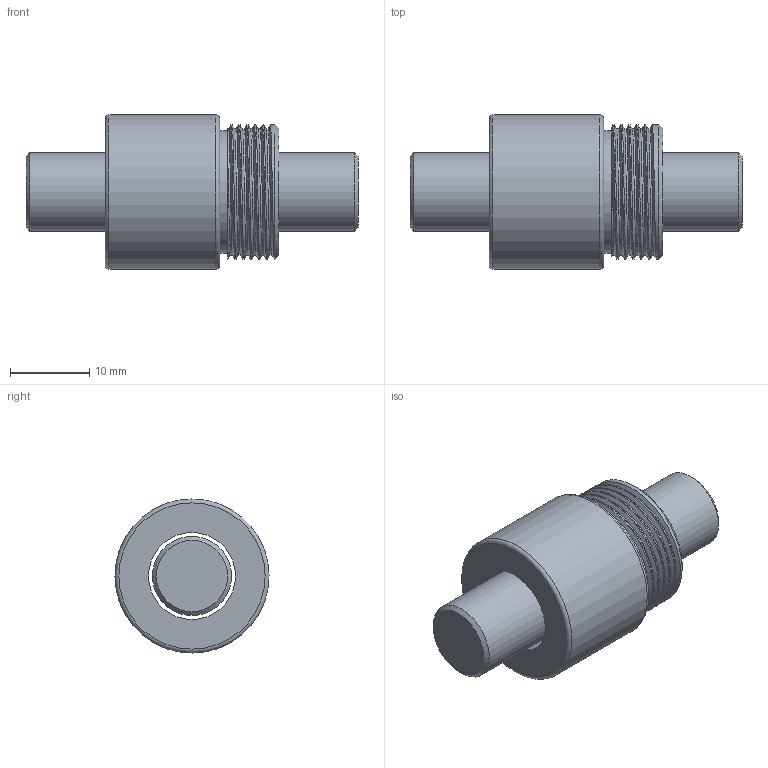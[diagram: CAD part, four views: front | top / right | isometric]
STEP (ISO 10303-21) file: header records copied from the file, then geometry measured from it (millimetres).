
FILE_DESCRIPTION(/* description */ (''),/* implementation_level */ '2;1');
FILE_NAME(/* name */ 'BSH1002',/* time_stamp */ '2007-10-26T08:35:02+08:00',/* author */ (''),/* organization */ (''),/* preprocessor_version */ 'ST-DEVELOPER v9',/* originating_system */ 'UGS - NX 3.0',/* authorisation */ '');
FILE_SCHEMA (('CONFIG_CONTROL_DESIGN'));
Length unit declared in the file: millimetre
Products named in the file (1): jaso3916htbp
Bounding box: 42 x 19.5 x 19.5 mm (x, y, z)
Volume: 7177.9 mm3; surface area: 4115.4 mm2
Topology: 2 solids, 2 shells, 20 faces, 38 edges, 24 vertices
Faces by surface type: plane 7, cylinder 6, cone 3, torus 2, bspline 2
Full cylindrical faces by diameter (mm): 10 x1, 11 x1, 15.5 x1, 19.5 x1
Entity records: 1235 total; most frequent: CARTESIAN_POINT 791, DIRECTION 73, ORIENTED_EDGE 56, AXIS2_PLACEMENT_3D 35, EDGE_LOOP 33, EDGE_CURVE 28, VERTEX_POINT 23, ADVANCED_FACE 20
